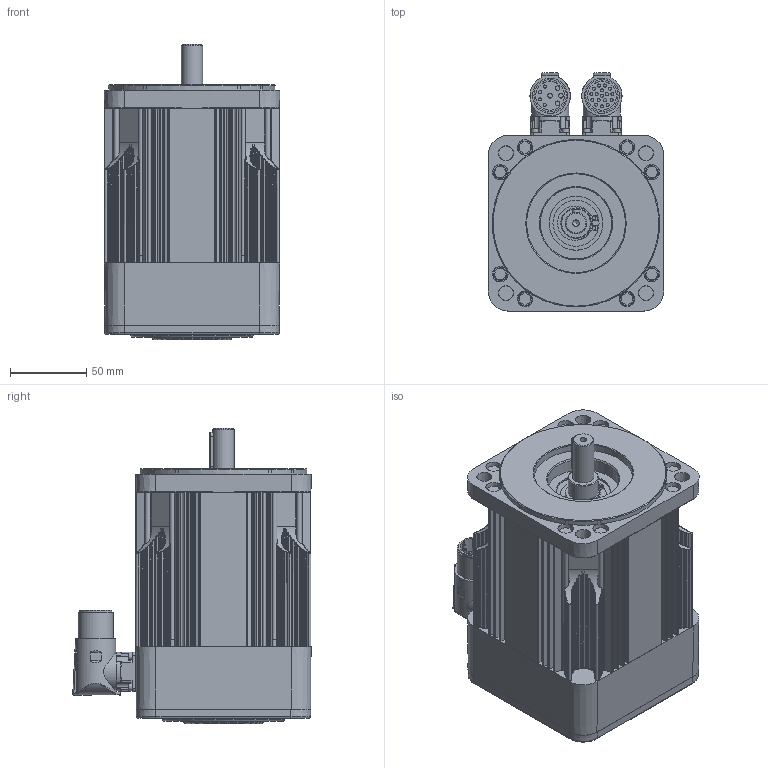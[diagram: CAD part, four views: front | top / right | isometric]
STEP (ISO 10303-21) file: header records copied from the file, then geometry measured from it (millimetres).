
FILE_DESCRIPTION( ( 'Unknown' ), '1' );
FILE_NAME( 'C:/Users/carpi/Desktop/step/Q0A535_3.stp', 'Unknown', ( 'Unknown' ), ( 'Unknown' ), 'PSStep 14.0', 'Unknown', ' ' );
FILE_SCHEMA( ( 'AUTOMOTIVE_DESIGN { 1 0 10303 214 1 1 1 1 }' ) );
Length unit declared in the file: millimetre
Products named in the file (26): Assem1; N33401; CUSC_20_52_15_6304_ZZ; A-Ela 20 P; N09403; Vite a brugola testa cil 8,8 -  M  4 x 12; N11401; Vite a brugola testa cil 8,8 -  M 2,5 x 8; CN M23 PAN-SEG AEDC 139 17 pin 90°o SpTcR; CN M23 PAN-POT BEDC 110 4+4 pin 90°o SpTcR; LI-PIA   5x5 x 25; N49400-3; N49400-3-oa0; N49400-3-oa1; N49400-3-oa2; N49400-3-oa3; N49400-3-oa4; N49400-3-oa5; N49400-3-oa6; N01400; N25400_3
Assembly tree (35 placements, depth 2):
  Assem1
    N33401
    CUSC_20_52_15_6304_ZZ
    CUSC_20_52_15_6304_ZZ
    CUSC_20_52_15_6304_ZZ
    CUSC_20_52_15_6304_ZZ
    CUSC_20_52_15_6304_ZZ
    CUSC_20_52_15_6304_ZZ
    A-Ela 20 P
    N09403
    Vite a brugola testa cil 8,8 -  M  4 x 12  x4
    N11401
    Vite a brugola testa cil 8,8 -  M 2,5 x 8  x8
    CN M23 PAN-SEG AEDC 139 17 pin 90°o SpTcR
    CN M23 PAN-POT BEDC 110 4+4 pin 90°o SpTcR
    LI-PIA   5x5 x 25
    N49400-3
    N49400-3-oa0
    N49400-3-oa1
    N49400-3-oa2
    N49400-3-oa3
    N49400-3-oa4
    N49400-3-oa5
    N49400-3-oa6
    N01400
    N25400_3
Bounding box: 115.45 x 156.78 x 194 mm (x, y, z)
Volume: 765659.8 mm3; surface area: 345299.8 mm2
Topology: 35 solids, 36 shells, 1993 faces, 5008 edges, 3147 vertices
Faces by surface type: cylinder 736, plane 612, torus 219, cone 205, bspline 174, sphere 47
Full cylindrical faces by diameter (mm): 2 x21, 2.013 x8, 2.5 x10, 2.7 x8, 3 x4, 3.242 x4, 3.3 x13, 3.4 x8, 4 x12, 4.2 x1, 4.7 x8, 7 x4, 8 x1, 8.5 x8, 14 x1, 17 x2, 19 x1, 19.8 x2, 20 x6, 21.3 x2, 23 x2, 23.9 x1, 24.5 x2, 24.7 x1, 25 x2, 30.24 x4, 41.76 x4, 44 x1, 47 x4, 49.5 x1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
Entity records: 81504 total; most frequent: CARTESIAN_POINT 27865, DIRECTION 8749, ORIENTED_EDGE 8582, EDGE_CURVE 4291, AXIS2_PLACEMENT_3D 3625, VERTEX_POINT 2854, EDGE_LOOP 2290, FACE_OUTER_BOUND 2012
